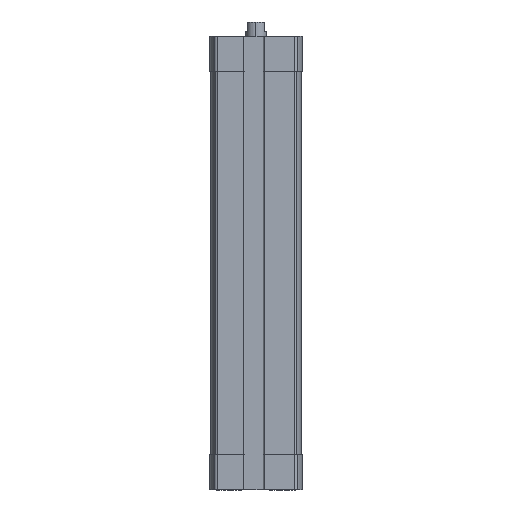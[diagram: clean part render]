
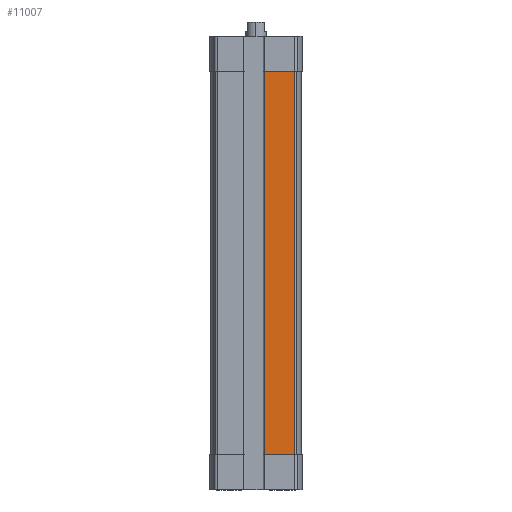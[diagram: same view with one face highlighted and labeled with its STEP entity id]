
A CAD part, left-side view. The second image highlights one B-rep face of the part: STEP entity #11007.
In plain terms, the highlighted planar face has unit normal (-1, 0, 0).
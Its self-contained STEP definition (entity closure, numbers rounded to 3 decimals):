
#448 = AXIS2_PLACEMENT_3D ( 'NONE', #9243, #8405, #3059 ) ;
#538 = FACE_OUTER_BOUND ( 'NONE', #5105, .T. ) ;
#820 = DIRECTION ( 'NONE',  ( 0., -1., 0. ) ) ;
#860 = DIRECTION ( 'NONE',  ( 0., 0., -1. ) ) ;
#972 = CARTESIAN_POINT ( 'NONE',  ( -13.5, -2.5, -124.5 ) ) ;
#1333 = LINE ( 'NONE', #8839, #8426 ) ;
#1554 = ORIENTED_EDGE ( 'NONE', *, *, #5482, .T. ) ;
#1771 = CARTESIAN_POINT ( 'NONE',  ( -13.5, -11.329, -124.5 ) ) ;
#2302 = CARTESIAN_POINT ( 'NONE',  ( -13.5, -2.5, -10.5 ) ) ;
#2770 = VERTEX_POINT ( 'NONE', #2302 ) ;
#3059 = DIRECTION ( 'NONE',  ( 0., 0., 1. ) ) ;
#3468 = DIRECTION ( 'NONE',  ( 0., 1., 0. ) ) ;
#4300 = VECTOR ( 'NONE', #6562, 1000. ) ;
#4587 = ORIENTED_EDGE ( 'NONE', *, *, #11277, .T. ) ;
#4864 = EDGE_CURVE ( 'NONE', #5588, #5486, #7202, .T. ) ;
#5105 = EDGE_LOOP ( 'NONE', ( #10064, #8273, #4587, #1554 ) ) ;
#5240 = LINE ( 'NONE', #9681, #7350 ) ;
#5482 = EDGE_CURVE ( 'NONE', #2770, #5588, #1333, .T. ) ;
#5486 = VERTEX_POINT ( 'NONE', #1771 ) ;
#5588 = VERTEX_POINT ( 'NONE', #972 ) ;
#6562 = DIRECTION ( 'NONE',  ( 0., 0., 1. ) ) ;
#7202 = LINE ( 'NONE', #9660, #7486 ) ;
#7350 = VECTOR ( 'NONE', #3468, 1000. ) ;
#7486 = VECTOR ( 'NONE', #820, 1000. ) ;
#7511 = PLANE ( 'NONE',  #448 ) ;
#8039 = CARTESIAN_POINT ( 'NONE',  ( -13.5, -11.329, -10.5 ) ) ;
#8273 = ORIENTED_EDGE ( 'NONE', *, *, #10319, .T. ) ;
#8302 = CARTESIAN_POINT ( 'NONE',  ( -13.5, -11.329, -124.5 ) ) ;
#8405 = DIRECTION ( 'NONE',  ( -1., 0., 0. ) ) ;
#8426 = VECTOR ( 'NONE', #860, 1000. ) ;
#8839 = CARTESIAN_POINT ( 'NONE',  ( -13.5, -2.5, -124.5 ) ) ;
#9038 = LINE ( 'NONE', #8302, #4300 ) ;
#9243 = CARTESIAN_POINT ( 'NONE',  ( -13.5, -2.5, -124.5 ) ) ;
#9660 = CARTESIAN_POINT ( 'NONE',  ( -13.5, -2.5, -124.5 ) ) ;
#9681 = CARTESIAN_POINT ( 'NONE',  ( -13.5, 0., -10.5 ) ) ;
#10064 = ORIENTED_EDGE ( 'NONE', *, *, #4864, .T. ) ;
#10319 = EDGE_CURVE ( 'NONE', #5486, #11375, #9038, .T. ) ;
#11007 = ADVANCED_FACE ( 'NONE', ( #538 ), #7511, .T. ) ;
#11277 = EDGE_CURVE ( 'NONE', #11375, #2770, #5240, .T. ) ;
#11375 = VERTEX_POINT ( 'NONE', #8039 ) ;
